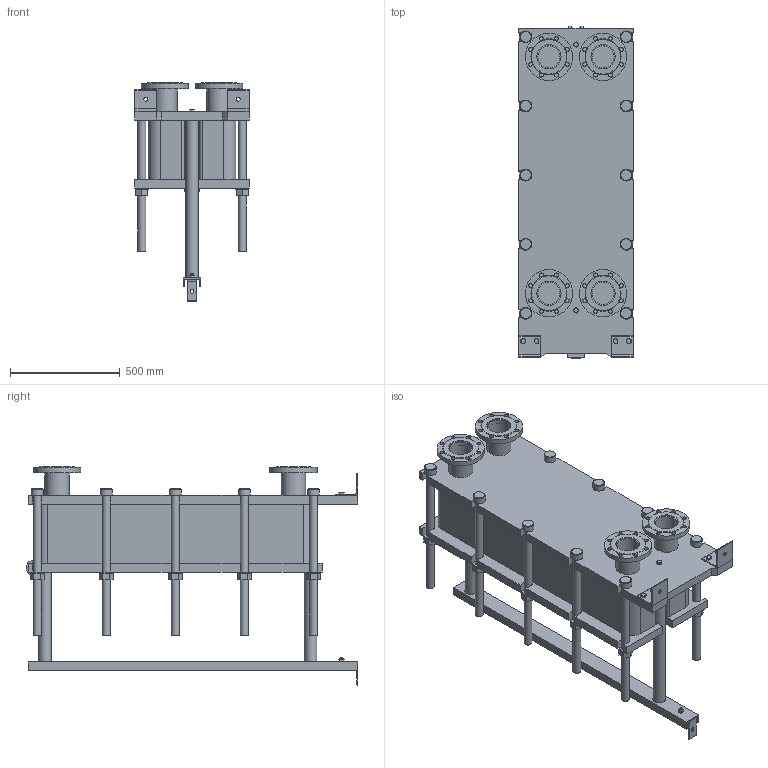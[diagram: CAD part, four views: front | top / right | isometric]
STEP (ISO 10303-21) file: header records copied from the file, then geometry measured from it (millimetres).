
FILE_DESCRIPTION(/* description */ (''),/* implementation_level */ '2;1');
FILE_NAME(/* name */ 'C:\Users\zhuro\Desktop\ENCO\TO\ЭН-04\ЭН-0,5-04-78-1.stp',/* time_stamp */ '2022-06-06T10:51:32+03:00',/* author */ ('zhuro'),/* organization */ (''),/* preprocessor_version */ 'ST-DEVELOPER v18.1',/* originating_system */ 'Autodesk Inventor 2022',/* authorisation */ '');
FILE_SCHEMA (('AUTOMOTIVE_DESIGN { 1 0 10303 214 3 1 1 }'));
Length unit declared in the file: millimetre
Products named in the file (1): ЭН-0,5-04-78-1
Bounding box: 520 x 1510 x 994 mm (x, y, z)
Volume: 204505911.7 mm3; surface area: 7871479.9 mm2
Topology: 45 solids, 45 shells, 668 faces, 1611 edges, 1048 vertices
Faces by surface type: plane 457, cylinder 166, cone 39, torus 6
Full cylindrical faces by diameter (mm): 8 x4, 10 x2, 16 x8, 18 x35, 36 x25, 40 x2, 42 x1, 45 x4, 54 x10, 57 x2, 60 x10, 68 x2, 100 x4, 110 x8, 215 x4
Entity records: 23607 total; most frequent: CARTESIAN_POINT 7348, DIRECTION 3371, ORIENTED_EDGE 3142, EDGE_CURVE 1571, AXIS2_PLACEMENT_3D 1199, VERTEX_POINT 1044, LINE 973, VECTOR 973
